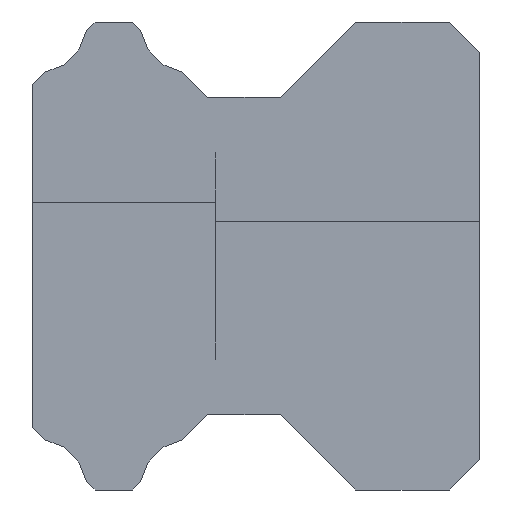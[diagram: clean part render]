
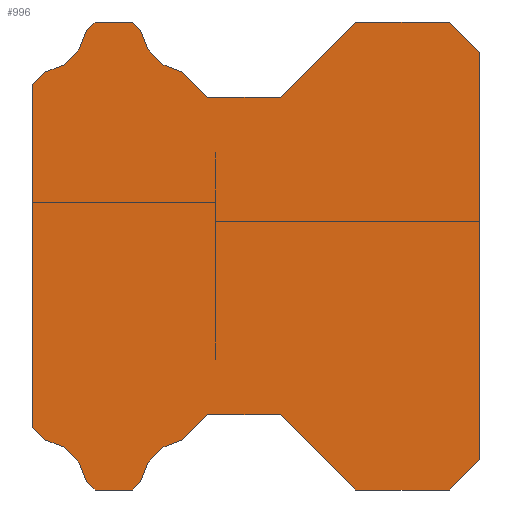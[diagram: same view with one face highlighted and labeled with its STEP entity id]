
A CAD part, left-side view. The second image highlights one B-rep face of the part: STEP entity #996.
In plain terms, the highlighted planar face has unit normal (-1, 0, 0).
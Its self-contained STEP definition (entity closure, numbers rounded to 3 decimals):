
#294=CARTESIAN_POINT('Vertex',(-20.,6.1,11.5)) ;
#299=CARTESIAN_POINT('Line Origine',(-20.,3.8,11.5)) ;
#303=CARTESIAN_POINT('Vertex',(-20.,1.5,11.5)) ;
#330=CARTESIAN_POINT('Line Origine',(-20.,0.75,10.75)) ;
#334=CARTESIAN_POINT('Vertex',(-20.,0.,10.)) ;
#365=CARTESIAN_POINT('Vertex',(-20.,0.,-10.)) ;
#370=CARTESIAN_POINT('Line Origine',(-20.,0.75,-10.75)) ;
#374=CARTESIAN_POINT('Vertex',(-20.,1.5,-11.5)) ;
#401=CARTESIAN_POINT('Line Origine',(-20.,3.8,-11.5)) ;
#405=CARTESIAN_POINT('Vertex',(-20.,6.1,-11.5)) ;
#432=CARTESIAN_POINT('Line Origine',(-20.,7.95,-9.65)) ;
#436=CARTESIAN_POINT('Vertex',(-20.,9.8,-7.8)) ;
#463=CARTESIAN_POINT('Line Origine',(-20.,11.59,-7.8)) ;
#467=CARTESIAN_POINT('Vertex',(-20.,13.38,-7.8)) ;
#494=CARTESIAN_POINT('Line Origine',(-20.,13.995,-8.415)) ;
#498=CARTESIAN_POINT('Vertex',(-20.,14.61,-9.031)) ;
#525=CARTESIAN_POINT('Axis2P3D Location',(-20.,14.222,-11.48)) ;
#529=CARTESIAN_POINT('Vertex',(-20.,16.671,-11.091)) ;
#551=CARTESIAN_POINT('Line Origine',(-20.,16.876,-11.296)) ;
#555=CARTESIAN_POINT('Vertex',(-20.,17.08,-11.5)) ;
#577=CARTESIAN_POINT('Line Origine',(-20.,17.995,-11.5)) ;
#581=CARTESIAN_POINT('Vertex',(-20.,18.91,-11.5)) ;
#608=CARTESIAN_POINT('Line Origine',(-20.,19.121,-11.289)) ;
#612=CARTESIAN_POINT('Vertex',(-20.,19.333,-11.077)) ;
#639=CARTESIAN_POINT('Axis2P3D Location',(-20.,21.78,-11.48)) ;
#643=CARTESIAN_POINT('Vertex',(-20.,21.377,-9.033)) ;
#665=CARTESIAN_POINT('Line Origine',(-20.,21.689,-8.721)) ;
#669=CARTESIAN_POINT('Vertex',(-20.,22.,-8.41)) ;
#700=CARTESIAN_POINT('Vertex',(-20.,22.,8.41)) ;
#705=CARTESIAN_POINT('Line Origine',(-20.,21.689,8.721)) ;
#709=CARTESIAN_POINT('Vertex',(-20.,21.377,9.033)) ;
#736=CARTESIAN_POINT('Axis2P3D Location',(-20.,21.78,11.48)) ;
#740=CARTESIAN_POINT('Vertex',(-20.,19.333,11.077)) ;
#762=CARTESIAN_POINT('Line Origine',(-20.,19.121,11.289)) ;
#766=CARTESIAN_POINT('Vertex',(-20.,18.91,11.5)) ;
#788=CARTESIAN_POINT('Line Origine',(-20.,17.995,11.5)) ;
#792=CARTESIAN_POINT('Vertex',(-20.,17.08,11.5)) ;
#819=CARTESIAN_POINT('Line Origine',(-20.,16.876,11.296)) ;
#823=CARTESIAN_POINT('Vertex',(-20.,16.671,11.091)) ;
#850=CARTESIAN_POINT('Axis2P3D Location',(-20.,14.222,11.48)) ;
#854=CARTESIAN_POINT('Vertex',(-20.,14.61,9.031)) ;
#876=CARTESIAN_POINT('Line Origine',(-20.,13.995,8.415)) ;
#880=CARTESIAN_POINT('Vertex',(-20.,13.38,7.8)) ;
#907=CARTESIAN_POINT('Line Origine',(-20.,11.59,7.8)) ;
#911=CARTESIAN_POINT('Vertex',(-20.,9.8,7.8)) ;
#938=CARTESIAN_POINT('Line Origine',(-20.,7.95,9.65)) ;
#955=CARTESIAN_POINT('Axis2P3D Location',(-20.,0.,0.)) ;
#960=CARTESIAN_POINT('Line Origine',(-20.,22.,0.)) ;
#965=CARTESIAN_POINT('Line Origine',(-20.,0.,0.)) ;
#300=DIRECTION('Vector Direction',(0.,-1.,0.)) ;
#331=DIRECTION('Vector Direction',(0.,-0.707,-0.707)) ;
#371=DIRECTION('Vector Direction',(0.,0.707,-0.707)) ;
#402=DIRECTION('Vector Direction',(0.,1.,0.)) ;
#433=DIRECTION('Vector Direction',(0.,0.707,0.707)) ;
#464=DIRECTION('Vector Direction',(0.,1.,0.)) ;
#495=DIRECTION('Vector Direction',(0.,0.707,-0.707)) ;
#526=DIRECTION('Axis2P3D Direction',(1.,-0.,0.)) ;
#552=DIRECTION('Vector Direction',(0.,0.707,-0.707)) ;
#578=DIRECTION('Vector Direction',(0.,1.,0.)) ;
#609=DIRECTION('Vector Direction',(0.,0.707,0.707)) ;
#640=DIRECTION('Axis2P3D Direction',(1.,-0.,0.)) ;
#666=DIRECTION('Vector Direction',(0.,0.707,0.707)) ;
#706=DIRECTION('Vector Direction',(0.,-0.707,0.707)) ;
#737=DIRECTION('Axis2P3D Direction',(1.,-0.,0.)) ;
#763=DIRECTION('Vector Direction',(0.,-0.707,0.707)) ;
#789=DIRECTION('Vector Direction',(0.,-1.,0.)) ;
#820=DIRECTION('Vector Direction',(0.,-0.707,-0.707)) ;
#851=DIRECTION('Axis2P3D Direction',(1.,-0.,0.)) ;
#877=DIRECTION('Vector Direction',(0.,-0.707,-0.707)) ;
#908=DIRECTION('Vector Direction',(0.,-1.,0.)) ;
#939=DIRECTION('Vector Direction',(0.,-0.707,0.707)) ;
#956=DIRECTION('Axis2P3D Direction',(1.,-0.,0.)) ;
#957=DIRECTION('Axis2P3D XDirection',(0.,0.,-1.)) ;
#961=DIRECTION('Vector Direction',(0.,0.,1.)) ;
#966=DIRECTION('Vector Direction',(0.,0.,-1.)) ;
#527=AXIS2_PLACEMENT_3D('Circle Axis2P3D',#525,#526,$) ;
#641=AXIS2_PLACEMENT_3D('Circle Axis2P3D',#639,#640,$) ;
#738=AXIS2_PLACEMENT_3D('Circle Axis2P3D',#736,#737,$) ;
#852=AXIS2_PLACEMENT_3D('Circle Axis2P3D',#850,#851,$) ;
#958=AXIS2_PLACEMENT_3D('Plane Axis2P3D',#955,#956,#957) ;
#971=ORIENTED_EDGE('',*,*,#942,.F.) ;
#972=ORIENTED_EDGE('',*,*,#913,.F.) ;
#973=ORIENTED_EDGE('',*,*,#882,.F.) ;
#974=ORIENTED_EDGE('',*,*,#856,.F.) ;
#975=ORIENTED_EDGE('',*,*,#825,.F.) ;
#976=ORIENTED_EDGE('',*,*,#794,.F.) ;
#977=ORIENTED_EDGE('',*,*,#768,.F.) ;
#978=ORIENTED_EDGE('',*,*,#742,.F.) ;
#979=ORIENTED_EDGE('',*,*,#711,.F.) ;
#980=ORIENTED_EDGE('',*,*,#964,.F.) ;
#981=ORIENTED_EDGE('',*,*,#671,.F.) ;
#982=ORIENTED_EDGE('',*,*,#645,.F.) ;
#983=ORIENTED_EDGE('',*,*,#614,.F.) ;
#984=ORIENTED_EDGE('',*,*,#583,.F.) ;
#985=ORIENTED_EDGE('',*,*,#557,.F.) ;
#986=ORIENTED_EDGE('',*,*,#531,.F.) ;
#987=ORIENTED_EDGE('',*,*,#500,.F.) ;
#988=ORIENTED_EDGE('',*,*,#469,.F.) ;
#989=ORIENTED_EDGE('',*,*,#438,.F.) ;
#990=ORIENTED_EDGE('',*,*,#407,.F.) ;
#991=ORIENTED_EDGE('',*,*,#376,.F.) ;
#992=ORIENTED_EDGE('',*,*,#969,.F.) ;
#993=ORIENTED_EDGE('',*,*,#336,.F.) ;
#994=ORIENTED_EDGE('',*,*,#305,.F.) ;
#301=VECTOR('Line Direction',#300,1.) ;
#332=VECTOR('Line Direction',#331,1.) ;
#372=VECTOR('Line Direction',#371,1.) ;
#403=VECTOR('Line Direction',#402,1.) ;
#434=VECTOR('Line Direction',#433,1.) ;
#465=VECTOR('Line Direction',#464,1.) ;
#496=VECTOR('Line Direction',#495,1.) ;
#553=VECTOR('Line Direction',#552,1.) ;
#579=VECTOR('Line Direction',#578,1.) ;
#610=VECTOR('Line Direction',#609,1.) ;
#667=VECTOR('Line Direction',#666,1.) ;
#707=VECTOR('Line Direction',#706,1.) ;
#764=VECTOR('Line Direction',#763,1.) ;
#790=VECTOR('Line Direction',#789,1.) ;
#821=VECTOR('Line Direction',#820,1.) ;
#878=VECTOR('Line Direction',#877,1.) ;
#909=VECTOR('Line Direction',#908,1.) ;
#940=VECTOR('Line Direction',#939,1.) ;
#962=VECTOR('Line Direction',#961,1.) ;
#967=VECTOR('Line Direction',#966,1.) ;
#996=ADVANCED_FACE('HSV25_RAIL',(#995),#959,.F.) ;
#528=CIRCLE('generated circle',#527,2.48) ;
#642=CIRCLE('generated circle',#641,2.48) ;
#739=CIRCLE('generated circle',#738,2.48) ;
#853=CIRCLE('generated circle',#852,2.48) ;
#305=EDGE_CURVE('',#295,#304,#302,.T.) ;
#336=EDGE_CURVE('',#304,#335,#333,.T.) ;
#376=EDGE_CURVE('',#366,#375,#373,.T.) ;
#407=EDGE_CURVE('',#375,#406,#404,.T.) ;
#438=EDGE_CURVE('',#406,#437,#435,.T.) ;
#469=EDGE_CURVE('',#437,#468,#466,.T.) ;
#500=EDGE_CURVE('',#468,#499,#497,.T.) ;
#531=EDGE_CURVE('',#499,#530,#528,.F.) ;
#557=EDGE_CURVE('',#530,#556,#554,.T.) ;
#583=EDGE_CURVE('',#556,#582,#580,.T.) ;
#614=EDGE_CURVE('',#582,#613,#611,.T.) ;
#645=EDGE_CURVE('',#613,#644,#642,.F.) ;
#671=EDGE_CURVE('',#644,#670,#668,.T.) ;
#711=EDGE_CURVE('',#701,#710,#708,.T.) ;
#742=EDGE_CURVE('',#710,#741,#739,.F.) ;
#768=EDGE_CURVE('',#741,#767,#765,.T.) ;
#794=EDGE_CURVE('',#767,#793,#791,.T.) ;
#825=EDGE_CURVE('',#793,#824,#822,.T.) ;
#856=EDGE_CURVE('',#824,#855,#853,.F.) ;
#882=EDGE_CURVE('',#855,#881,#879,.T.) ;
#913=EDGE_CURVE('',#881,#912,#910,.T.) ;
#942=EDGE_CURVE('',#912,#295,#941,.T.) ;
#964=EDGE_CURVE('',#670,#701,#963,.T.) ;
#969=EDGE_CURVE('',#335,#366,#968,.T.) ;
#970=EDGE_LOOP('',(#971,#972,#973,#974,#975,#976,#977,#978,#979,#980,#981,#982,#983,#984,#985,#986,#987,#988,#989,#990,#991,#992,#993,#994)) ;
#995=FACE_OUTER_BOUND('',#970,.T.) ;
#302=LINE('Line',#299,#301) ;
#333=LINE('Line',#330,#332) ;
#373=LINE('Line',#370,#372) ;
#404=LINE('Line',#401,#403) ;
#435=LINE('Line',#432,#434) ;
#466=LINE('Line',#463,#465) ;
#497=LINE('Line',#494,#496) ;
#554=LINE('Line',#551,#553) ;
#580=LINE('Line',#577,#579) ;
#611=LINE('Line',#608,#610) ;
#668=LINE('Line',#665,#667) ;
#708=LINE('Line',#705,#707) ;
#765=LINE('Line',#762,#764) ;
#791=LINE('Line',#788,#790) ;
#822=LINE('Line',#819,#821) ;
#879=LINE('Line',#876,#878) ;
#910=LINE('Line',#907,#909) ;
#941=LINE('Line',#938,#940) ;
#963=LINE('Line',#960,#962) ;
#968=LINE('Line',#965,#967) ;
#959=PLANE('',#958) ;
#295=VERTEX_POINT('',#294) ;
#304=VERTEX_POINT('',#303) ;
#335=VERTEX_POINT('',#334) ;
#366=VERTEX_POINT('',#365) ;
#375=VERTEX_POINT('',#374) ;
#406=VERTEX_POINT('',#405) ;
#437=VERTEX_POINT('',#436) ;
#468=VERTEX_POINT('',#467) ;
#499=VERTEX_POINT('',#498) ;
#530=VERTEX_POINT('',#529) ;
#556=VERTEX_POINT('',#555) ;
#582=VERTEX_POINT('',#581) ;
#613=VERTEX_POINT('',#612) ;
#644=VERTEX_POINT('',#643) ;
#670=VERTEX_POINT('',#669) ;
#701=VERTEX_POINT('',#700) ;
#710=VERTEX_POINT('',#709) ;
#741=VERTEX_POINT('',#740) ;
#767=VERTEX_POINT('',#766) ;
#793=VERTEX_POINT('',#792) ;
#824=VERTEX_POINT('',#823) ;
#855=VERTEX_POINT('',#854) ;
#881=VERTEX_POINT('',#880) ;
#912=VERTEX_POINT('',#911) ;
